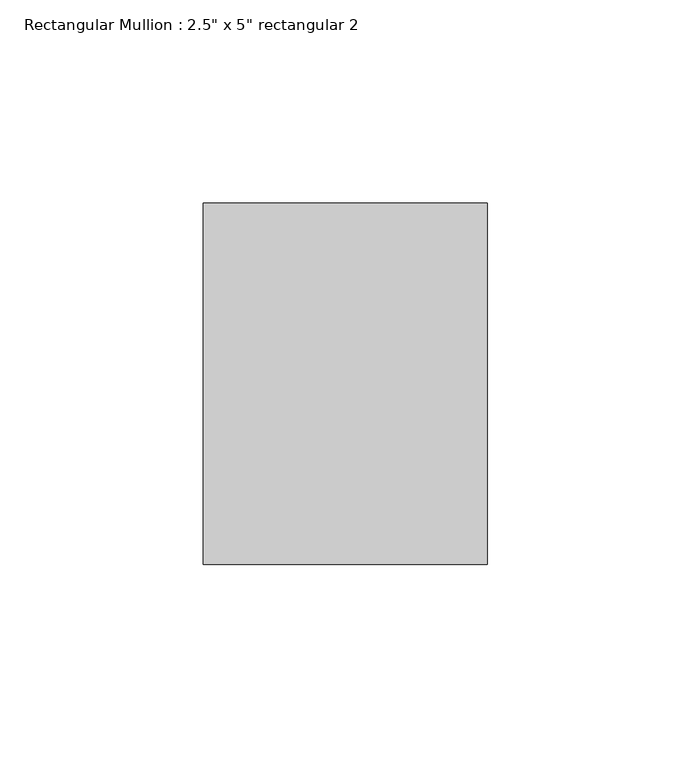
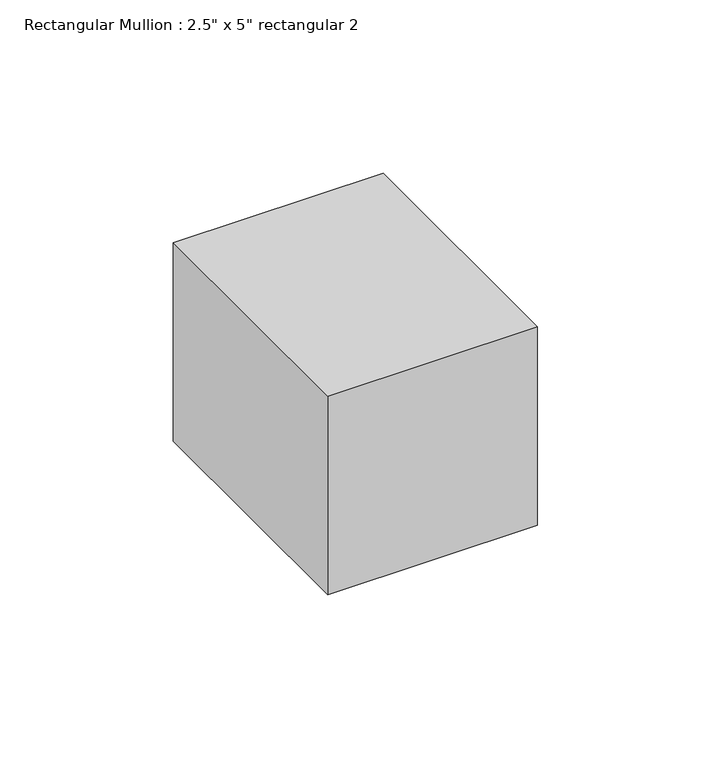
"""IFC4 building model written with IfcOpenShell, lengths in millimetres: member geometry."""

from ifc_helpers import new_model, si_unit, frame, origin, place, context, project, spatial, polyline, outline, extrude, source, transform, mapped, element, save


def member_f4542e0e(model_context):
    return source(origin(), model_context, "Body", "SweptSolid", [
        extrude(outline(polyline([(38.1, 44.45), (38.1, -44.45), (-31.75, -44.45), (-31.75, 44.45), (38.1, 44.45)])), frame((0.0, 0.0, -69.85), z_axis=(0.0, 0.0, 1.0), x_axis=(1.0, 0.0, 0.0)), (0.0, 0.0, 1.0), 69.85),
    ])


if __name__ == "__main__":
    model = new_model("IFC4")
    model_context = context("Model", 3, world=origin())
    ifc_project = project(units=[si_unit("LENGTHUNIT", "METRE", prefix="MILLI")], contexts=[model_context])
    site = spatial("IfcSite", under=ifc_project)
    building = spatial("IfcBuilding", under=site)
    placement = place(None, origin())
    member_shape = member_f4542e0e(model_context)
    element("IfcMember", 1, ObjectType="Rectangular Mullion : 2.5\" x 5\" rectangular 2", at=placement, inside=building, context=model_context, shape_type="MappedRepresentation", body=[
        mapped(member_shape, transform((0.0, 0.0, 0.0), x_axis=(1.0, 0.0, 0.0), y_axis=(0.0, 1.0, 0.0), z_axis=(0.0, 0.0, 1.0))),
    ])
    save(model, "model.ifc")
